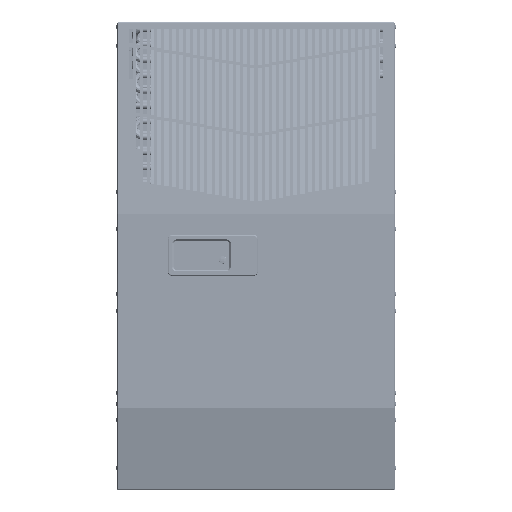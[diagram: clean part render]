
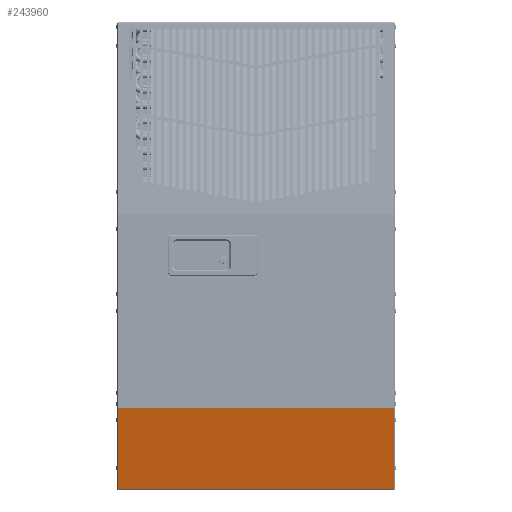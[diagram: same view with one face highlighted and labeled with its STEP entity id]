
A CAD part, top view. The second image highlights one B-rep face of the part: STEP entity #243960.
In plain terms, the highlighted planar face has unit normal (0, -0.212, 0.977).
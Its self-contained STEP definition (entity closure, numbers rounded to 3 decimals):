
#9368 = CARTESIAN_POINT ( 'NONE',  ( 8.404, -23.605, 11.173 ) ) ;
#9385 = CARTESIAN_POINT ( 'NONE',  ( -0.344, -28.54, 10.102 ) ) ;
#9388 = CARTESIAN_POINT ( 'NONE',  ( 8.404, -23.605, 11.173 ) ) ;
#9389 = DIRECTION ( 'NONE',  ( -1., 0., 0. ) ) ;
#9390 = DIRECTION ( 'NONE',  ( 0., 0.977, 0.212 ) ) ;
#9395 = CARTESIAN_POINT ( 'NONE',  ( 8.404, -23.605, 11.173 ) ) ;
#9396 = DIRECTION ( 'NONE',  ( -1., 0., 0. ) ) ;
#9408 = DIRECTION ( 'NONE',  ( -1., 0., 0. ) ) ;
#9411 = CARTESIAN_POINT ( 'NONE',  ( 8.404, -23.612, 11.172 ) ) ;
#9412 = DIRECTION ( 'NONE',  ( -1., 0., 0. ) ) ;
#9414 = CARTESIAN_POINT ( 'NONE',  ( -0.094, -28.54, 10.102 ) ) ;
#9416 = CARTESIAN_POINT ( 'NONE',  ( 0.094, -28.54, 10.102 ) ) ;
#9418 = DIRECTION ( 'NONE',  ( 0., -0.977, -0.212 ) ) ;
#9420 = CARTESIAN_POINT ( 'NONE',  ( 8.404, -23.612, 11.172 ) ) ;
#9422 = DIRECTION ( 'NONE',  ( 1., 0., 0. ) ) ;
#9426 = DIRECTION ( 'NONE',  ( 0., -0.977, -0.212 ) ) ;
#9428 = CARTESIAN_POINT ( 'NONE',  ( 8.404, -28.54, 10.102 ) ) ;
#9430 = CARTESIAN_POINT ( 'NONE',  ( -8.404, -28.54, 10.102 ) ) ;
#9431 = DIRECTION ( 'NONE',  ( 0., 0.977, 0.212 ) ) ;
#9435 = CARTESIAN_POINT ( 'NONE',  ( 8.404, -28.54, 10.102 ) ) ;
#9437 = DIRECTION ( 'NONE',  ( -1., 0., 0. ) ) ;
#9439 = CARTESIAN_POINT ( 'NONE',  ( 0.344, -28.54, 10.102 ) ) ;
#9441 = DIRECTION ( 'NONE',  ( 0., 0.977, 0.212 ) ) ;
#9449 = DIRECTION ( 'NONE',  ( 0., 0.977, 0.212 ) ) ;
#16172 = LINE ( 'NONE', #9420, #16188 ) ;
#16173 = LINE ( 'NONE', #9385, #16178 ) ;
#16177 = LINE ( 'NONE', #9388, #16180 ) ;
#16178 = VECTOR ( 'NONE', #9390, 39.37 ) ;
#16180 = VECTOR ( 'NONE', #9389, 39.37 ) ;
#16185 = VECTOR ( 'NONE', #9396, 39.37 ) ;
#16188 = VECTOR ( 'NONE', #9422, 39.37 ) ;
#16190 = LINE ( 'NONE', #9368, #16185 ) ;
#16193 = VECTOR ( 'NONE', #9408, 39.37 ) ;
#16194 = VECTOR ( 'NONE', #9426, 39.37 ) ;
#16196 = LINE ( 'NONE', #9395, #16193 ) ;
#16198 = LINE ( 'NONE', #9411, #16199 ) ;
#16199 = VECTOR ( 'NONE', #9412, 39.37 ) ;
#16200 = LINE ( 'NONE', #9416, #16202 ) ;
#16202 = VECTOR ( 'NONE', #9418, 39.37 ) ;
#16204 = LINE ( 'NONE', #9428, #16215 ) ;
#16206 = LINE ( 'NONE', #9414, #16194 ) ;
#16208 = LINE ( 'NONE', #9439, #16219 ) ;
#16209 = LINE ( 'NONE', #9430, #16210 ) ;
#16210 = VECTOR ( 'NONE', #9431, 39.37 ) ;
#16212 = LINE ( 'NONE', #9435, #16214 ) ;
#16214 = VECTOR ( 'NONE', #9437, 39.37 ) ;
#16215 = VECTOR ( 'NONE', #9441, 39.37 ) ;
#16219 = VECTOR ( 'NONE', #9449, 39.37 ) ;
#22032 = ORIENTED_EDGE ( 'NONE', *, *, #155987, .F. ) ;
#22034 = ORIENTED_EDGE ( 'NONE', *, *, #155984, .F. ) ;
#22036 = ORIENTED_EDGE ( 'NONE', *, *, #155968, .T. ) ;
#22038 = ORIENTED_EDGE ( 'NONE', *, *, #155992, .T. ) ;
#22040 = ORIENTED_EDGE ( 'NONE', *, *, #155980, .T. ) ;
#22042 = ORIENTED_EDGE ( 'NONE', *, *, #155961, .T. ) ;
#22044 = ORIENTED_EDGE ( 'NONE', *, *, #155977, .T. ) ;
#22046 = ORIENTED_EDGE ( 'NONE', *, *, #155995, .F. ) ;
#22048 = ORIENTED_EDGE ( 'NONE', *, *, #155998, .F. ) ;
#22050 = ORIENTED_EDGE ( 'NONE', *, *, #156001, .T. ) ;
#22052 = ORIENTED_EDGE ( 'NONE', *, *, #155958, .T. ) ;
#22054 = ORIENTED_EDGE ( 'NONE', *, *, #156009, .F. ) ;
#24815 = VERTEX_POINT ( 'NONE', #140894 ) ;
#24817 = VERTEX_POINT ( 'NONE', #140897 ) ;
#24819 = VERTEX_POINT ( 'NONE', #140900 ) ;
#24821 = VERTEX_POINT ( 'NONE', #140903 ) ;
#24823 = VERTEX_POINT ( 'NONE', #140905 ) ;
#24825 = VERTEX_POINT ( 'NONE', #140908 ) ;
#24827 = VERTEX_POINT ( 'NONE', #140911 ) ;
#24829 = VERTEX_POINT ( 'NONE', #140914 ) ;
#24831 = VERTEX_POINT ( 'NONE', #140917 ) ;
#24833 = VERTEX_POINT ( 'NONE', #140920 ) ;
#24834 = VERTEX_POINT ( 'NONE', #140922 ) ;
#24836 = VERTEX_POINT ( 'NONE', #140925 ) ;
#72807 = CARTESIAN_POINT ( 'NONE',  ( 8.404, -28.54, 10.102 ) ) ;
#72819 = PLANE ( 'NONE',  #186105 ) ;
#72827 = DIRECTION ( 'NONE',  ( 0., -0.212, 0.977 ) ) ;
#72830 = DIRECTION ( 'NONE',  ( 0., -0.977, -0.212 ) ) ;
#140894 = CARTESIAN_POINT ( 'NONE',  ( 0.094, -23.605, 11.173 ) ) ;
#140897 = CARTESIAN_POINT ( 'NONE',  ( -0.094, -23.605, 11.173 ) ) ;
#140900 = CARTESIAN_POINT ( 'NONE',  ( 0.344, -23.605, 11.173 ) ) ;
#140903 = CARTESIAN_POINT ( 'NONE',  ( 8.404, -23.605, 11.173 ) ) ;
#140905 = CARTESIAN_POINT ( 'NONE',  ( 0.094, -23.612, 11.172 ) ) ;
#140908 = CARTESIAN_POINT ( 'NONE',  ( 0.344, -23.612, 11.172 ) ) ;
#140911 = CARTESIAN_POINT ( 'NONE',  ( -0.094, -23.612, 11.172 ) ) ;
#140914 = CARTESIAN_POINT ( 'NONE',  ( -0.344, -23.612, 11.172 ) ) ;
#140917 = CARTESIAN_POINT ( 'NONE',  ( -0.344, -23.605, 11.173 ) ) ;
#140920 = CARTESIAN_POINT ( 'NONE',  ( -8.404, -23.605, 11.173 ) ) ;
#140922 = CARTESIAN_POINT ( 'NONE',  ( -8.404, -28.54, 10.102 ) ) ;
#140925 = CARTESIAN_POINT ( 'NONE',  ( 8.404, -28.54, 10.102 ) ) ;
#155958 = EDGE_CURVE ( 'NONE', #24821, #24819, #16177, .T. ) ;
#155961 = EDGE_CURVE ( 'NONE', #24829, #24831, #16173, .T. ) ;
#155968 = EDGE_CURVE ( 'NONE', #24815, #24817, #16190, .T. ) ;
#155977 = EDGE_CURVE ( 'NONE', #24831, #24833, #16196, .T. ) ;
#155980 = EDGE_CURVE ( 'NONE', #24827, #24829, #16198, .T. ) ;
#155984 = EDGE_CURVE ( 'NONE', #24815, #24823, #16200, .T. ) ;
#155987 = EDGE_CURVE ( 'NONE', #24823, #24825, #16172, .T. ) ;
#155992 = EDGE_CURVE ( 'NONE', #24817, #24827, #16206, .T. ) ;
#155995 = EDGE_CURVE ( 'NONE', #24834, #24833, #16209, .T. ) ;
#155998 = EDGE_CURVE ( 'NONE', #24836, #24834, #16212, .T. ) ;
#156001 = EDGE_CURVE ( 'NONE', #24836, #24821, #16204, .T. ) ;
#156009 = EDGE_CURVE ( 'NONE', #24825, #24819, #16208, .T. ) ;
#186105 = AXIS2_PLACEMENT_3D ( 'NONE', #72807, #72827, #72830 ) ;
#207453 = FACE_OUTER_BOUND ( 'NONE', #242876, .T. ) ;
#242876 = EDGE_LOOP ( 'NONE', ( #22032, #22034, #22036, #22038, #22040, #22042, #22044, #22046, #22048, #22050, #22052, #22054 ) ) ;
#243960 = ADVANCED_FACE ( 'NONE', ( #207453 ), #72819, .T. ) ;
